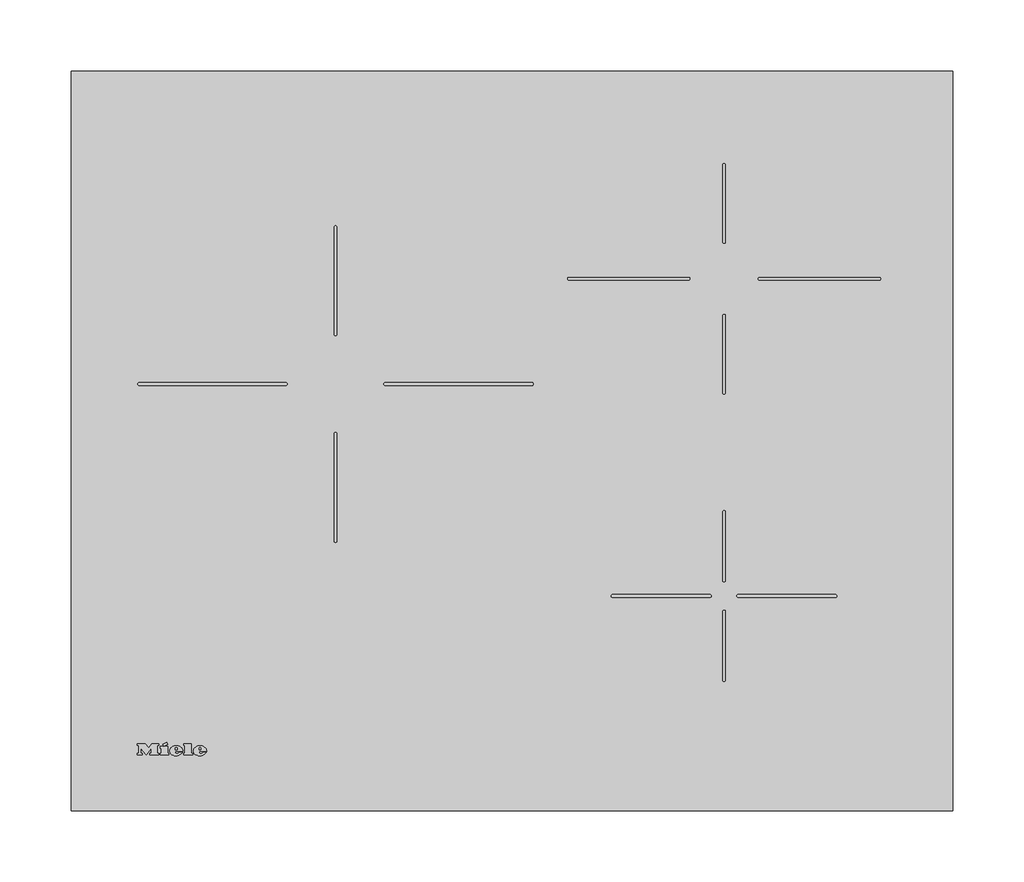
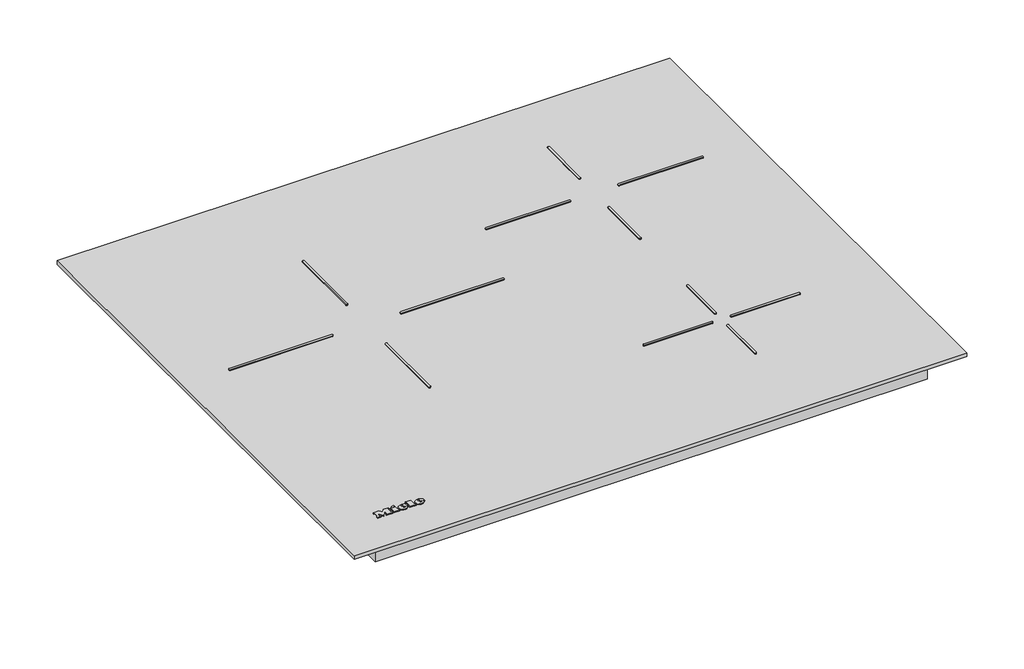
# Not in any storey: 1 proxy.
"""IFC4 building model written with IfcOpenShell, lengths in millimetres."""

import ifcopenshell
import ifcopenshell.guid

model = None  # the IFC model being written
_history = None  # IfcOwnerHistory: only IFC2X3 demands one
_inside = {}  # id of a spatial element -> (the spatial element, [elements in it])
_under = {}  # id of a project, library or spatial element -> (it, [spatial elements below it])
_declared = {}  # id of a project -> (the project, [libraries it declares])
_typed = {}  # id of a type object -> (the type object, [elements of that type])
_made_of = {}  # id of a material, layer set ... -> (it, [elements and type objects made of it])


def new_model(schema):
    """Start an empty IFC model of exactly this schema.

    Asked for "IFC4X3", IfcOpenShell would pick the latest addendum, in which some entities
    have other attributes; the version numbers below select the first issue.
    IFC2X3 requires an IfcOwnerHistory on every rooted entity: one is made here for all.
    """
    global model, _history
    if schema == "IFC4X3":
        model = ifcopenshell.file(schema_version=(4, 3, 0, 0))
    else:
        model = ifcopenshell.file(schema=schema)
    _inside.clear()
    _under.clear()
    _declared.clear()
    _typed.clear()
    _made_of.clear()
    _history = None
    if model.schema == "IFC2X3":
        org = make("IfcOrganization", Name="unknown")
        user = make(
            "IfcPersonAndOrganization",
            ThePerson=make("IfcPerson", FamilyName="unknown"),
            TheOrganization=org,
        )
        app = make(
            "IfcApplication",
            ApplicationDeveloper=org,
            Version="unknown",
            ApplicationFullName="unknown",
            ApplicationIdentifier="unknown",
        )
        _history = make(
            "IfcOwnerHistory",
            OwningUser=user,
            OwningApplication=app,
            ChangeAction="ADDED",
            CreationDate=0,
        )
    return model


def make(cls, **values):
    """One entity of the class cls with the attributes given. An attribute that is None is left unset."""
    return model.create_entity(
        cls, **{name: value for name, value in values.items() if value is not None}
    )


def rooted(cls, **values):
    """An entity with a GlobalId (a new one), such as an element, a storey or a relation."""
    return make(cls, GlobalId=ifcopenshell.guid.new(), OwnerHistory=_history, **values)


def si_unit(unit_type, name, prefix=None):
    """IfcSIUnit, for example si_unit("LENGTHUNIT", "METRE", prefix="MILLI")."""
    return make("IfcSIUnit", UnitType=unit_type, Prefix=prefix, Name=name)


def assignment(units):
    """IfcUnitAssignment: the units of a project."""
    return None if units is None else make("IfcUnitAssignment", Units=units)


def point(xyz):
    """IfcCartesianPoint."""
    return None if xyz is None else make("IfcCartesianPoint", Coordinates=xyz)


def direction(xyz):
    """IfcDirection."""
    return None if xyz is None else make("IfcDirection", DirectionRatios=xyz)


def frame(location, z_axis=None, x_axis=None):
    """IfcAxis2Placement3D, a coordinate frame: its origin and axes. An axis left out is left unset."""
    return make(
        "IfcAxis2Placement3D",
        Location=point(location),
        Axis=direction(z_axis),
        RefDirection=direction(x_axis),
    )


def frame_2d(location, x_axis=None):
    """IfcAxis2Placement2D, a coordinate frame in the plane: its origin and x axis."""
    return make(
        "IfcAxis2Placement2D", Location=point(location), RefDirection=direction(x_axis)
    )


def origin():
    """The frame at (0, 0, 0) with its axes left unset."""
    return frame((0.0, 0.0, 0.0))


def origin_with_axes():
    """The frame at (0, 0, 0) with the z axis (0, 0, 1) and the x axis (1, 0, 0) written out."""
    return frame((0.0, 0.0, 0.0), z_axis=(0.0, 0.0, 1.0), x_axis=(1.0, 0.0, 0.0))


def place(relative_to, where):
    """IfcLocalPlacement: puts the frame where relative to a parent placement (None: the world)."""
    return make(
        "IfcLocalPlacement", PlacementRelTo=relative_to, RelativePlacement=where
    )


def context(
    kind, dimensions, precision=None, world=None, true_north=None, identifier=None
):
    """IfcGeometricRepresentationContext, for example the 3D "Model" context."""
    return make(
        "IfcGeometricRepresentationContext",
        ContextIdentifier=identifier,
        ContextType=kind,
        CoordinateSpaceDimension=dimensions,
        Precision=precision,
        WorldCoordinateSystem=world,
        TrueNorth=true_north,
    )


def project(units=None, contexts=None):
    """IfcProject with its units and contexts."""
    return rooted(
        "IfcProject",
        Name="project",
        RepresentationContexts=contexts,
        UnitsInContext=assignment(units),
    )


def spatial(cls, under=None, at=None, **own):
    """A site, building, storey or space (cls), placed at a placement, below another one or the project."""
    s = rooted(cls, ObjectPlacement=at, **own)
    if under is not None:
        _under.setdefault(under.id(), (under, []))[1].append(s)
    return s


def polyline(points):
    """IfcPolyline through the points."""
    return make("IfcPolyline", Points=[point(p) for p in points])


def circle_curve(where, radius):
    """IfcCircle in the frame where."""
    return make("IfcCircle", Position=where, Radius=radius)


def ellipse_curve(where, semi_axis1, semi_axis2):
    """IfcEllipse in the frame where."""
    return make(
        "IfcEllipse", Position=where, SemiAxis1=semi_axis1, SemiAxis2=semi_axis2
    )


def trimmed(basis, trim1, trim2, sense, master):
    """IfcTrimmedCurve: the piece of a basis curve between two trims."""
    return make(
        "IfcTrimmedCurve",
        BasisCurve=basis,
        Trim1=trim1,
        Trim2=trim2,
        SenseAgreement=sense,
        MasterRepresentation=master,
    )


def segment(curve, same_sense, transition):
    """IfcCompositeCurveSegment."""
    return make(
        "IfcCompositeCurveSegment",
        Transition=transition,
        SameSense=same_sense,
        ParentCurve=curve,
    )


def composite_curve(segments, self_intersect=None):
    """IfcCompositeCurve: segments joined end to end."""
    return make("IfcCompositeCurve", Segments=segments, SelfIntersect=self_intersect)


def outline(outer, holes=None, kind="AREA"):
    """IfcArbitraryClosedProfileDef: a profile drawn as a closed curve; with holes, ...WithVoids."""
    if holes is None:
        return make("IfcArbitraryClosedProfileDef", ProfileType=kind, OuterCurve=outer)
    return make(
        "IfcArbitraryProfileDefWithVoids",
        ProfileType=kind,
        OuterCurve=outer,
        InnerCurves=holes,
    )


def extrude(swept, where, along, depth):
    """IfcExtrudedAreaSolid: the profile swept, set in the frame where, extruded along a direction by depth."""
    return make(
        "IfcExtrudedAreaSolid",
        SweptArea=swept,
        Position=where,
        ExtrudedDirection=direction(along),
        Depth=depth,
    )


def shape(context_of_items, identifier, shape_type, items):
    """IfcShapeRepresentation: the items that make up one representation, for example the "Body"."""
    return make(
        "IfcShapeRepresentation",
        ContextOfItems=context_of_items,
        RepresentationIdentifier=identifier,
        RepresentationType=shape_type,
        Items=items,
    )


def source(mapping_origin, context_of_items, identifier, shape_type, items):
    """IfcRepresentationMap: a shape defined once, which mapped items show again and again."""
    return make(
        "IfcRepresentationMap",
        MappingOrigin=mapping_origin,
        MappedRepresentation=shape(context_of_items, identifier, shape_type, items),
    )


def transform(
    local_origin,
    x_axis=None,
    y_axis=None,
    z_axis=None,
    scale=None,
    scale2=None,
    scale3=None,
    uniform=True,
):
    """IfcCartesianTransformationOperator3D, or its non-uniform kind. x_axis, y_axis, z_axis: its Axis1, 2, 3."""
    if uniform:
        return make(
            "IfcCartesianTransformationOperator3D",
            Axis1=direction(x_axis),
            Axis2=direction(y_axis),
            LocalOrigin=point(local_origin),
            Scale=scale,
            Axis3=direction(z_axis),
        )
    return make(
        "IfcCartesianTransformationOperator3DnonUniform",
        Axis1=direction(x_axis),
        Axis2=direction(y_axis),
        LocalOrigin=point(local_origin),
        Scale=scale,
        Axis3=direction(z_axis),
        Scale2=scale2,
        Scale3=scale3,
    )


def mapped(mapping_source, mapping_target):
    """IfcMappedItem: shows the shape of a source again, moved by a transform."""
    return make(
        "IfcMappedItem", MappingSource=mapping_source, MappingTarget=mapping_target
    )


def made_of(thing, what):
    """Note that an element or type object is made of a material, layer set ...; save() writes the relation."""
    if what is not None:
        _made_of.setdefault(what.id(), (what, []))[1].append(thing)
    return thing


def element(
    cls,
    number,
    at=None,
    inside=None,
    cuts=None,
    type_object=None,
    material=None,
    context=None,
    identifier="Body",
    shape_type=None,
    held_by="IfcProductDefinitionShape",
    body=None,
    shapes=None,
    **own,
):
    """One element of the class cls, such as IfcWall. Its Tag is "e" and its number.

    at: its placement. inside: the storey or other place that contains it. cuts: it is an
    opening in that element (IfcRelVoidsElement). A single representation is given by context,
    identifier, shape_type and body (its items); several are given by shapes. held_by: the class
    of the entity that holds the representations. save() writes the other relations.
    """
    e = rooted(cls, Tag="e%d" % number, ObjectPlacement=at, **own)
    if body is not None:
        shapes = [shape(context, identifier, shape_type, body)]
    if shapes is not None:
        e.Representation = make(held_by, Representations=shapes)
    if inside is not None:
        _inside.setdefault(inside.id(), (inside, []))[1].append(e)
    if cuts is not None:
        rooted(
            "IfcRelVoidsElement", RelatingBuildingElement=cuts, RelatedOpeningElement=e
        )
    if type_object is not None:
        _typed.setdefault(type_object.id(), (type_object, []))[1].append(e)
    return made_of(e, material)


def aggregate(whole, parts):
    """IfcRelAggregates: a whole, such as a stair, and the parts it consists of."""
    return rooted("IfcRelAggregates", RelatingObject=whole, RelatedObjects=parts)


def save(model, path):
    """Write the relations noted so far, then the file.

    IfcRelAggregates (storeys below a building ...), IfcRelContainedInSpatialStructure (elements
    in a storey), IfcRelDefinesByType, IfcRelAssociatesMaterial and IfcRelDeclares: one each for
    every whole, place, type object, material and project.
    """
    for whole, parts in _under.values():
        aggregate(whole, parts)
    for where, things in _inside.values():
        rooted(
            "IfcRelContainedInSpatialStructure",
            RelatedElements=things,
            RelatingStructure=where,
        )
    for kind, things in _typed.values():
        rooted("IfcRelDefinesByType", RelatedObjects=things, RelatingType=kind)
    for what, things in _made_of.values():
        rooted("IfcRelAssociatesMaterial", RelatedObjects=things, RelatingMaterial=what)
    for by, libraries in _declared.values():
        rooted("IfcRelDeclares", RelatingContext=by, RelatedDefinitions=libraries)
    model.write(path)


def plane_surface(at):
    """IfcPlane: the flat surface through the origin of the frame at, square to its z axis."""
    return make("IfcPlane", Position=at)


def cylinder_surface(at, radius):
    """IfcCylindricalSurface: all points at the distance radius from the z axis of the frame at."""
    return make("IfcCylindricalSurface", Position=at, Radius=radius)


def revolved_surface(curve, axis_point, axis_direction):
    """IfcSurfaceOfRevolution: the curve turned about the line through axis_point along axis_direction."""
    return make(
        "IfcSurfaceOfRevolution",
        SweptCurve=make("IfcArbitraryOpenProfileDef", ProfileType="CURVE", Curve=curve),
        AxisPosition=make("IfcAxis1Placement", Location=point(axis_point), Axis=direction(axis_direction)),
    )


def extruded_surface(curve, direction_of_extrusion, depth):
    """IfcSurfaceOfLinearExtrusion: the curve pushed along a direction by depth."""
    return make(
        "IfcSurfaceOfLinearExtrusion",
        SweptCurve=make("IfcArbitraryOpenProfileDef", ProfileType="CURVE", Curve=curve),
        ExtrudedDirection=direction(direction_of_extrusion),
        Depth=depth,
    )


def advanced_brep(points, edges, surfaces, faces):
    """IfcAdvancedBrep: a solid bounded by faces that lie on surfaces and meet in shared edges.

    An edge is (start, end): straight between two places in points (the first is 0);
    or (start, end, curve); or (start, end, curve, False) where it runs against its curve.
    A face is (place in surfaces, loops), or (place, loops, False) where it looks against
    its surface's normal. A loop lists edges by number (the first is 1), with a minus sign
    where the edge is run from its end to its start. The first loop is the outer one.
    """
    corners = [point(p) for p in points]
    vertices = [make("IfcVertexPoint", VertexGeometry=c) for c in corners]
    made = []
    for start, end, *more in edges:
        made.append(
            make(
                "IfcEdgeCurve",
                EdgeStart=vertices[start],
                EdgeEnd=vertices[end],
                EdgeGeometry=more[0] if more else make("IfcPolyline", Points=[corners[start], corners[end]]),
                SameSense=more[1] if len(more) > 1 else True,
            )
        )
    hull = []
    for where, loops, *sense in faces:
        bounds = []
        for j, loop in enumerate(loops):
            ring = [make("IfcOrientedEdge", EdgeElement=made[abs(k) - 1], Orientation=k > 0) for k in loop]
            bounds.append(
                make(
                    "IfcFaceOuterBound" if j == 0 else "IfcFaceBound",
                    Bound=make("IfcEdgeLoop", EdgeList=ring),
                    Orientation=True,
                )
            )
        hull.append(make("IfcAdvancedFace", Bounds=bounds, FaceSurface=surfaces[where], SameSense=sense[0] if sense else True))
    return make("IfcAdvancedBrep", Outer=make("IfcClosedShell", CfsFaces=hull))


def specialty_equipment_c76324b8(model_context):
    return source(origin(), model_context, "Body", "SolidModel", [
        advanced_brep(
        [(-219.911984, 41.066, 5.0000007), (-219.911984, 41.874, 5.0000007), (-214.559984, 41.874, 5.0000007), (-223.871984, 41.874, 5.0000007), (-221.671984, 39.17, 5.0000007), (-214.695984, 41.066, 5.0000007), (-217.111984, 41.066, 5.0000007), (-219.015984, 40.17, 5.0000007), (-219.911984, 42.898, 5.0000007), (-219.911984, 43.77, 5.0000007), (-218.543984, 43.77, 5.0000007), (-218.543984, 42.898, 5.0000007), (-219.911984, 41.066, 4.0000007), (-219.015984, 40.17, 4.0000007), (-217.111984, 41.066, 4.0000007), (-214.695984, 41.066, 4.0000007), (-221.671984, 39.17, 4.0000007), (-223.871984, 41.874, 4.0000007), (-214.559984, 41.874, 4.0000007), (-219.911984, 41.874, 4.0000007), (-219.911984, 42.898, 4.0000007), (-218.543984, 42.898, 4.0000007), (-218.543984, 43.77, 4.0000007), (-219.911984, 43.77, 4.0000007)],
        [
            (0, 1),
            (1, 2),
            (2, 3, ellipse_curve(frame((-219.215984, 41.874, 5.0000007), z_axis=(0.0, 0.0, 1.0), x_axis=(-1.0, 0.0, 0.0)), 4.656, 3.848)),
            (3, 4, circle_curve(frame((-220.7759404, 42.146, 5.0000007), z_axis=(0.0, 0.0, 1.0), x_axis=(0.0, -1.0, 0.0)), 3.1079688)),
            (4, 5, circle_curve(frame((-219.3091904, 44.258, 5.0000007), z_axis=(0.0, 0.0, 1.0), x_axis=(0.0, -1.0, 0.0)), 5.6098607)),
            (5, 6),
            (6, 7, circle_curve(frame((-218.6249252, 41.81, 5.0000007), z_axis=(0.0, 0.0, -1.0), x_axis=(0.0, -1.0, 0.0)), 1.6859795)),
            (7, 0, circle_curve(frame((-219.015984, 41.066, 5.0000007), z_axis=(0.0, 0.0, -1.0), x_axis=(0.0, -1.0, 0.0)), 0.896)),
            (8, 9),
            (9, 10, circle_curve(frame((-219.227984, 43.77, 5.0000007), z_axis=(0.0, 0.0, -1.0), x_axis=(0.0, -1.0, 0.0)), 0.684)),
            (10, 11),
            (11, 8),
            (12, 13, circle_curve(frame((-219.015984, 41.066, 4.0000007), z_axis=(0.0, 0.0, 1.0), x_axis=(0.0, -1.0, 0.0)), 0.896)),
            (13, 14, circle_curve(frame((-218.6249252, 41.81, 4.0000007), z_axis=(0.0, 0.0, 1.0), x_axis=(0.0, -1.0, 0.0)), 1.6859795)),
            (14, 15),
            (15, 16, circle_curve(frame((-219.3091904, 44.258, 4.0000007), z_axis=(0.0, 0.0, -1.0), x_axis=(0.0, -1.0, 0.0)), 5.6098607)),
            (16, 17, circle_curve(frame((-220.7759404, 42.146, 4.0000007), z_axis=(0.0, 0.0, -1.0), x_axis=(0.0, -1.0, 0.0)), 3.1079688)),
            (17, 18, ellipse_curve(frame((-219.215984, 41.874, 4.0000007), z_axis=(0.0, 0.0, -1.0), x_axis=(-1.0, 0.0, 0.0)), 4.656, 3.848)),
            (18, 19),
            (19, 12),
            (20, 21),
            (21, 22),
            (22, 23, circle_curve(frame((-219.227984, 43.77, 4.0000007), z_axis=(0.0, 0.0, 1.0), x_axis=(0.0, -1.0, 0.0)), 0.684)),
            (23, 20),
            (0, 12),
            (19, 1),
            (18, 2),
            (5, 15),
            (14, 6),
            (17, 3),
            (13, 7),
            (16, 4),
            (8, 20),
            (23, 9),
            (22, 10),
            (21, 11),
        ],
        [
            plane_surface(frame((-219.911984, 41.874, 5.0000007), z_axis=(0.0, 0.0, 1.0), x_axis=(0.0, 1.0, 0.0))),
            plane_surface(frame((-219.911984, 41.874, 4.0000007), z_axis=(0.0, 0.0, -1.0), x_axis=(0.0, -1.0, 0.0))),
            plane_surface(frame((-219.911984, 41.066, 5.0000007), z_axis=(1.0, 0.0, 0.0), x_axis=(0.0, 0.0, -1.0))),
            plane_surface(frame((-219.911984, 41.874, 5.0000007), z_axis=(0.0, -1.0, 0.0), x_axis=(0.0, 0.0, -1.0))),
            plane_surface(frame((-214.695984, 41.066, 5.0000007), z_axis=(0.0, 1.0, 0.0), x_axis=(0.0, 0.0, -1.0))),
            extruded_surface(trimmed(ellipse_curve(frame((-219.215984, 41.874, 3.0000007), z_axis=(0.0, 0.0, 1.0), x_axis=(-1.0, 0.0, 0.0)), 4.656, 3.848), [point((-214.559984, 41.874, 3.0000007))], [point((-223.871984, 41.874, 3.0000007))], True, "CARTESIAN"), (0.0, 0.0, 1.0), 1.0),
            revolved_surface(polyline([(-218.6249252, 40.1240205, 4.0000007), (-218.6249252, 40.1240205, 5.0000007)]), (-218.6249252, 41.81, 4.0000007), (0.0, 0.0, -1.0)),
            revolved_surface(polyline([(-219.015984, 40.17, 4.0000007), (-219.015984, 40.17, 5.0000007)]), (-219.015984, 41.066, 4.0000007), (0.0, 0.0, -1.0)),
            cylinder_surface(frame((-220.7759404, 42.146, 4.0000007), z_axis=(0.0, 0.0, 1.0), x_axis=(0.0, -1.0, 0.0)), 3.1079688),
            cylinder_surface(frame((-219.3091904, 44.258, 4.0000007), z_axis=(0.0, 0.0, 1.0), x_axis=(0.0, -1.0, 0.0)), 5.6098607),
            plane_surface(frame((-219.911984, 42.898, 5.0000007), z_axis=(1.0, 0.0, 0.0), x_axis=(0.0, 0.0, -1.0))),
            revolved_surface(polyline([(-219.227984, 43.086000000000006, 4.0000007), (-219.227984, 43.086000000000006, 5.0000007)]), (-219.227984, 43.77, 4.0000007), (0.0, 0.0, -1.0)),
            plane_surface(frame((-218.543984, 43.77, 5.0000007), z_axis=(-1.0, 0.0, 0.0), x_axis=(0.0, 0.0, -1.0))),
            plane_surface(frame((-218.543984, 42.898, 5.0000007), z_axis=(0.0, 1.0, 0.0), x_axis=(0.0, 0.0, -1.0))),
        ],
        [
            (0, [[1, 2, 3, 4, 5, 6, 7, 8], [9, 10, 11, 12]]),
            (1, [[13, 14, 15, 16, 17, 18, 19, 20], [21, 22, 23, 24]]),
            (2, [[-1, 25, -20, 26]]),
            (3, [[-2, -26, -19, 27]]),
            (4, [[-6, 28, -15, 29]]),
            (5, [[-3, -27, -18, 30]]),
            (6, [[-7, -29, -14, 31]]),
            (7, [[-8, -31, -13, -25]]),
            (8, [[-4, -30, -17, 32]]),
            (9, [[-5, -32, -16, -28]]),
            (10, [[-9, 33, -24, 34]]),
            (11, [[-10, -34, -23, 35]]),
            (12, [[-11, -35, -22, 36]]),
            (13, [[-12, -36, -21, -33]]),
        ],
    ),
        advanced_brep(
        [(-236.607984, 41.066, 5.0000007), (-236.607984, 41.874, 5.0000007), (-231.255984, 41.874, 5.0000007), (-240.567984, 41.874, 5.0000007), (-238.367984, 39.17, 5.0000007), (-231.391984, 41.066, 5.0000007), (-233.807984, 41.066, 5.0000007), (-235.711984, 40.17, 5.0000007), (-236.607984, 42.898, 5.0000007), (-236.607984, 43.77, 5.0000007), (-235.239984, 43.77, 5.0000007), (-235.239984, 42.898, 5.0000007), (-236.607984, 41.066, 4.0000007), (-235.711984, 40.17, 4.0000007), (-233.807984, 41.066, 4.0000007), (-231.391984, 41.066, 4.0000007), (-238.367984, 39.17, 4.0000007), (-240.567984, 41.874, 4.0000007), (-231.255984, 41.874, 4.0000007), (-236.607984, 41.874, 4.0000007), (-236.607984, 42.898, 4.0000007), (-235.239984, 42.898, 4.0000007), (-235.239984, 43.77, 4.0000007), (-236.607984, 43.77, 4.0000007)],
        [
            (0, 1),
            (1, 2),
            (2, 3, ellipse_curve(frame((-235.911984, 41.874, 5.0000007), z_axis=(0.0, 0.0, 1.0), x_axis=(-1.0, 0.0, 0.0)), 4.656, 3.848)),
            (3, 4, circle_curve(frame((-237.4719404, 42.146, 5.0000007), z_axis=(0.0, 0.0, 1.0), x_axis=(0.0, -1.0, 0.0)), 3.1079688)),
            (4, 5, circle_curve(frame((-236.0051904, 44.258, 5.0000007), z_axis=(0.0, 0.0, 1.0), x_axis=(0.0, -1.0, 0.0)), 5.6098607)),
            (5, 6),
            (6, 7, circle_curve(frame((-235.3209252, 41.81, 5.0000007), z_axis=(0.0, 0.0, -1.0), x_axis=(0.0, -1.0, 0.0)), 1.6859795)),
            (7, 0, circle_curve(frame((-235.711984, 41.066, 5.0000007), z_axis=(0.0, 0.0, -1.0), x_axis=(0.0, -1.0, 0.0)), 0.896)),
            (8, 9),
            (9, 10, circle_curve(frame((-235.923984, 43.77, 5.0000007), z_axis=(0.0, 0.0, -1.0), x_axis=(0.0, -1.0, 0.0)), 0.684)),
            (10, 11),
            (11, 8),
            (12, 13, circle_curve(frame((-235.711984, 41.066, 4.0000007), z_axis=(0.0, 0.0, 1.0), x_axis=(0.0, -1.0, 0.0)), 0.896)),
            (13, 14, circle_curve(frame((-235.3209252, 41.81, 4.0000007), z_axis=(0.0, 0.0, 1.0), x_axis=(0.0, -1.0, 0.0)), 1.6859795)),
            (14, 15),
            (15, 16, circle_curve(frame((-236.0051904, 44.258, 4.0000007), z_axis=(0.0, 0.0, -1.0), x_axis=(0.0, -1.0, 0.0)), 5.6098607)),
            (16, 17, circle_curve(frame((-237.4719404, 42.146, 4.0000007), z_axis=(0.0, 0.0, -1.0), x_axis=(0.0, -1.0, 0.0)), 3.1079688)),
            (17, 18, ellipse_curve(frame((-235.911984, 41.874, 4.0000007), z_axis=(0.0, 0.0, -1.0), x_axis=(-1.0, 0.0, 0.0)), 4.656, 3.848)),
            (18, 19),
            (19, 12),
            (20, 21),
            (21, 22),
            (22, 23, circle_curve(frame((-235.923984, 43.77, 4.0000007), z_axis=(0.0, 0.0, 1.0), x_axis=(0.0, -1.0, 0.0)), 0.684)),
            (23, 20),
            (0, 12),
            (19, 1),
            (18, 2),
            (5, 15),
            (14, 6),
            (17, 3),
            (13, 7),
            (16, 4),
            (8, 20),
            (23, 9),
            (22, 10),
            (21, 11),
        ],
        [
            plane_surface(frame((-236.607984, 41.874, 5.0000007), z_axis=(0.0, 0.0, 1.0), x_axis=(0.0, 1.0, 0.0))),
            plane_surface(frame((-236.607984, 41.874, 4.0000007), z_axis=(0.0, 0.0, -1.0), x_axis=(0.0, -1.0, 0.0))),
            plane_surface(frame((-236.607984, 41.066, 5.0000007), z_axis=(1.0, 0.0, 0.0), x_axis=(0.0, 0.0, -1.0))),
            plane_surface(frame((-236.607984, 41.874, 5.0000007), z_axis=(0.0, -1.0, 0.0), x_axis=(0.0, 0.0, -1.0))),
            plane_surface(frame((-231.391984, 41.066, 5.0000007), z_axis=(0.0, 1.0, 0.0), x_axis=(0.0, 0.0, -1.0))),
            extruded_surface(trimmed(ellipse_curve(frame((-235.911984, 41.874, 3.0000007), z_axis=(0.0, 0.0, 1.0), x_axis=(-1.0, 0.0, 0.0)), 4.656, 3.848), [point((-231.255984, 41.874, 3.0000007))], [point((-240.567984, 41.874, 3.0000007))], True, "CARTESIAN"), (0.0, 0.0, 1.0), 1.0),
            revolved_surface(polyline([(-235.3209252, 40.1240205, 4.0000007), (-235.3209252, 40.1240205, 5.0000007)]), (-235.3209252, 41.81, 4.0000007), (0.0, 0.0, -1.0)),
            revolved_surface(polyline([(-235.711984, 40.17, 4.0000007), (-235.711984, 40.17, 5.0000007)]), (-235.711984, 41.066, 4.0000007), (0.0, 0.0, -1.0)),
            cylinder_surface(frame((-237.4719404, 42.146, 4.0000007), z_axis=(0.0, 0.0, 1.0), x_axis=(0.0, -1.0, 0.0)), 3.1079688),
            cylinder_surface(frame((-236.0051904, 44.258, 4.0000007), z_axis=(0.0, 0.0, 1.0), x_axis=(0.0, -1.0, 0.0)), 5.6098607),
            plane_surface(frame((-236.607984, 42.898, 5.0000007), z_axis=(1.0, 0.0, 0.0), x_axis=(0.0, 0.0, -1.0))),
            revolved_surface(polyline([(-235.923984, 43.086000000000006, 4.0000007), (-235.923984, 43.086000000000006, 5.0000007)]), (-235.923984, 43.77, 4.0000007), (0.0, 0.0, -1.0)),
            plane_surface(frame((-235.239984, 43.77, 5.0000007), z_axis=(-1.0, 0.0, 0.0), x_axis=(0.0, 0.0, -1.0))),
            plane_surface(frame((-235.239984, 42.898, 5.0000007), z_axis=(0.0, 1.0, 0.0), x_axis=(0.0, 0.0, -1.0))),
        ],
        [
            (0, [[1, 2, 3, 4, 5, 6, 7, 8], [9, 10, 11, 12]]),
            (1, [[13, 14, 15, 16, 17, 18, 19, 20], [21, 22, 23, 24]]),
            (2, [[-1, 25, -20, 26]]),
            (3, [[-2, -26, -19, 27]]),
            (4, [[-6, 28, -15, 29]]),
            (5, [[-3, -27, -18, 30]]),
            (6, [[-7, -29, -14, 31]]),
            (7, [[-8, -31, -13, -25]]),
            (8, [[-4, -30, -17, 32]]),
            (9, [[-5, -32, -16, -28]]),
            (10, [[-9, 33, -24, 34]]),
            (11, [[-10, -34, -23, 35]]),
            (12, [[-11, -35, -22, 36]]),
            (13, [[-12, -36, -21, -33]]),
        ],
    ),
        extrude(outline(polyline([(-245.351984, 46.698), (-242.631984, 47.962), (-242.031984, 46.666), (-244.743984, 45.402), (-245.351984, 46.698)])), frame((0.0, 0.0, 4.0000007), z_axis=(0.0, 0.0, 1.0), x_axis=(1.0, 0.0, 0.0)), (0.0, 0.0, 1.0), 1.0),
        extrude(outline(polyline([(-247.327984, 45.226), (-241.943984, 45.226), (-241.943984, 40.514), (-241.015984, 40.514), (-241.015984, 39.17), (-247.327984, 39.17), (-247.327984, 40.514), (-246.375984, 40.514), (-246.375984, 43.794), (-247.327984, 43.794), (-247.327984, 45.226)])), frame((0.0, 0.0, 4.0000007), z_axis=(0.0, 0.0, 1.0), x_axis=(1.0, 0.0, 0.0)), (0.0, 0.0, 1.0), 1.0),
        extrude(outline(polyline([(-230.807984, 45.866), (-230.807984, 47.17), (-225.303984, 47.17), (-225.303984, 40.514), (-224.319984, 40.514), (-224.319984, 39.17), (-230.807984, 39.17), (-230.807984, 40.514), (-229.847984, 40.514), (-229.847984, 45.866), (-230.807984, 45.866)])), frame((0.0, 0.0, 4.0000007), z_axis=(0.0, 0.0, 1.0), x_axis=(1.0, 0.0, 0.0)), (0.0, 0.0, 1.0), 1.0),
        extrude(outline(polyline([(-263.271984, 45.866), (-263.271984, 47.17), (-257.695984, 47.17), (-255.351984, 44.17), (-253.015984, 47.17), (-248.143984, 47.17), (-248.143984, 45.866), (-249.159984, 45.866), (-249.159984, 40.514), (-248.143984, 40.514), (-248.143984, 39.17), (-254.527984, 39.17), (-254.527984, 40.514), (-253.543984, 40.514), (-253.543984, 43.9852223), (-257.135984, 39.17), (-260.711984, 43.9171247), (-260.711984, 40.514), (-259.751984, 40.514), (-259.751984, 39.17), (-263.271984, 39.17), (-263.271984, 40.514), (-262.303984, 40.514), (-262.303984, 45.866), (-263.271984, 45.866)])), frame((0.0, 0.0, 4.0000007), z_axis=(0.0, 0.0, 1.0), x_axis=(1.0, 0.0, 0.0)), (0.0, 0.0, 1.0), 1.0),
        extrude(outline(composite_curve([segment(polyline([(174.0, 375.0), (258.0, 375.0)]), True, "CONTINUOUS"), segment(trimmed(circle_curve(frame_2d((258.0, 374.0)), 1.0), [point((258.0, 375.0))], [point((258.0, 373.0))], False, "CARTESIAN"), True, "CONTINUOUS"), segment(polyline([(258.0, 373.0), (174.0, 373.0)]), True, "CONTINUOUS"), segment(trimmed(circle_curve(frame_2d((174.0, 374.0)), 1.0), [point((174.0, 373.0))], [point((174.0, 375.0))], False, "CARTESIAN"), True, "CONTINUOUS")], self_intersect=False)), frame((0.0, 0.0, 4.0000007), z_axis=(0.0, 0.0, 1.0), x_axis=(1.0, 0.0, 0.0)), (0.0, 0.0, 1.0), 1.0),
        extrude(outline(composite_curve([segment(trimmed(circle_curve(frame_2d((149.0, 454.0164244)), 1.0), [point((148.0, 454.0164244))], [point((150.0, 454.0164244))], False, "CARTESIAN"), True, "CONTINUOUS"), segment(polyline([(150.0, 454.0164244), (150.0, 400.0)]), True, "CONTINUOUS"), segment(trimmed(circle_curve(frame_2d((149.0, 400.0)), 1.0), [point((150.0, 400.0))], [point((148.0, 400.0))], False, "CARTESIAN"), True, "CONTINUOUS"), segment(polyline([(148.0, 400.0), (148.0, 454.0164244)]), True, "CONTINUOUS")], self_intersect=False)), frame((0.0, 0.0, 4.0000007), z_axis=(0.0, 0.0, 1.0), x_axis=(1.0, 0.0, 0.0)), (0.0, 0.0, 1.0), 1.0),
        extrude(outline(composite_curve([segment(trimmed(circle_curve(frame_2d((159.0, 151.0)), 1.0), [point((159.0, 150.0))], [point((159.0, 152.0))], False, "CARTESIAN"), True, "CONTINUOUS"), segment(polyline([(159.0, 152.0), (227.2574779, 152.0)]), True, "CONTINUOUS"), segment(trimmed(circle_curve(frame_2d((227.2574779, 151.0)), 1.0), [point((227.2574779, 152.0))], [point((227.2574779, 150.0))], False, "CARTESIAN"), True, "CONTINUOUS"), segment(polyline([(227.2574779, 150.0), (159.0, 150.0)]), True, "CONTINUOUS")], self_intersect=False)), frame((0.0, 0.0, 4.0000007), z_axis=(0.0, 0.0, 1.0), x_axis=(1.0, 0.0, 0.0)), (0.0, 0.0, 1.0), 1.0),
        extrude(outline(composite_curve([segment(polyline([(148.0, 92.0), (148.0, 140.0)]), True, "CONTINUOUS"), segment(trimmed(circle_curve(frame_2d((149.0, 140.0)), 1.0), [point((148.0, 140.0))], [point((150.0, 140.0))], False, "CARTESIAN"), True, "CONTINUOUS"), segment(polyline([(150.0, 140.0), (150.0, 92.0)]), True, "CONTINUOUS"), segment(trimmed(circle_curve(frame_2d((149.0, 92.0)), 1.0), [point((150.0, 92.0))], [point((148.0, 92.0))], False, "CARTESIAN"), True, "CONTINUOUS")], self_intersect=False)), frame((0.0, 0.0, 4.0000007), z_axis=(0.0, 0.0, 1.0), x_axis=(1.0, 0.0, 0.0)), (0.0, 0.0, 1.0), 1.0),
        extrude(outline(composite_curve([segment(polyline([(-125.0, 189.7404504), (-125.0, 265.0)]), True, "CONTINUOUS"), segment(trimmed(circle_curve(frame_2d((-124.0, 265.0)), 1.0), [point((-125.0, 265.0))], [point((-123.0, 265.0))], False, "CARTESIAN"), True, "CONTINUOUS"), segment(polyline([(-123.0, 265.0), (-123.0, 189.7404504)]), True, "CONTINUOUS"), segment(trimmed(circle_curve(frame_2d((-124.0, 189.7404504)), 1.0), [point((-123.0, 189.7404504))], [point((-125.0, 189.7404504))], False, "CARTESIAN"), True, "CONTINUOUS")], self_intersect=False)), frame((0.0, 0.0, 4.0000007), z_axis=(0.0, 0.0, 1.0), x_axis=(1.0, 0.0, 0.0)), (0.0, 0.0, 1.0), 1.0),
        extrude(outline(composite_curve([segment(trimmed(circle_curve(frame_2d((-89.0, 300.0)), 1.0), [point((-89.0, 299.0))], [point((-89.0, 301.0))], False, "CARTESIAN"), True, "CONTINUOUS"), segment(polyline([(-89.0, 301.0), (14.0, 301.0)]), True, "CONTINUOUS"), segment(trimmed(circle_curve(frame_2d((14.0, 300.0)), 1.0), [point((14.0, 301.0))], [point((14.0, 299.0))], False, "CARTESIAN"), True, "CONTINUOUS"), segment(polyline([(14.0, 299.0), (-89.0, 299.0)]), True, "CONTINUOUS")], self_intersect=False)), frame((0.0, 0.0, 4.0000007), z_axis=(0.0, 0.0, 1.0), x_axis=(1.0, 0.0, 0.0)), (0.0, 0.0, 1.0), 1.0),
        extrude(outline(composite_curve([segment(polyline([(148.0, 293.9835756), (148.0, 348.0)]), True, "CONTINUOUS"), segment(trimmed(circle_curve(frame_2d((149.0, 348.0)), 1.0), [point((148.0, 348.0))], [point((150.0, 348.0))], False, "CARTESIAN"), True, "CONTINUOUS"), segment(polyline([(150.0, 348.0), (150.0, 293.9835756)]), True, "CONTINUOUS"), segment(trimmed(circle_curve(frame_2d((149.0, 293.9835756)), 1.0), [point((150.0, 293.9835756))], [point((148.0, 293.9835756))], False, "CARTESIAN"), True, "CONTINUOUS")], self_intersect=False)), frame((0.0, 0.0, 4.0000007), z_axis=(0.0, 0.0, 1.0), x_axis=(1.0, 0.0, 0.0)), (0.0, 0.0, 1.0), 1.0),
        extrude(outline(composite_curve([segment(trimmed(circle_curve(frame_2d((124.0, 374.0)), 1.0), [point((124.0, 375.0))], [point((124.0, 373.0))], False, "CARTESIAN"), True, "CONTINUOUS"), segment(polyline([(124.0, 373.0), (40.0, 373.0)]), True, "CONTINUOUS"), segment(trimmed(circle_curve(frame_2d((40.0, 374.0)), 1.0), [point((40.0, 373.0))], [point((40.0, 375.0))], False, "CARTESIAN"), True, "CONTINUOUS"), segment(polyline([(40.0, 375.0), (124.0, 375.0)]), True, "CONTINUOUS")], self_intersect=False)), frame((0.0, 0.0, 4.0000007), z_axis=(0.0, 0.0, 1.0), x_axis=(1.0, 0.0, 0.0)), (0.0, 0.0, 1.0), 1.0),
        extrude(outline(composite_curve([segment(trimmed(circle_curve(frame_2d((149.0, 210.0)), 1.0), [point((148.0, 210.0))], [point((150.0, 210.0))], False, "CARTESIAN"), True, "CONTINUOUS"), segment(polyline([(150.0, 210.0), (150.0, 162.0)]), True, "CONTINUOUS"), segment(trimmed(circle_curve(frame_2d((149.0, 162.0)), 1.0), [point((150.0, 162.0))], [point((148.0, 162.0))], False, "CARTESIAN"), True, "CONTINUOUS"), segment(polyline([(148.0, 162.0), (148.0, 210.0)]), True, "CONTINUOUS")], self_intersect=False)), frame((0.0, 0.0, 4.0000007), z_axis=(0.0, 0.0, 1.0), x_axis=(1.0, 0.0, 0.0)), (0.0, 0.0, 1.0), 1.0),
        extrude(outline(composite_curve([segment(polyline([(139.0, 150.0), (70.7425221, 150.0)]), True, "CONTINUOUS"), segment(trimmed(circle_curve(frame_2d((70.7425221, 151.0)), 1.0), [point((70.7425221, 150.0))], [point((70.7425221, 152.0))], False, "CARTESIAN"), True, "CONTINUOUS"), segment(polyline([(70.7425221, 152.0), (139.0, 152.0)]), True, "CONTINUOUS"), segment(trimmed(circle_curve(frame_2d((139.0, 151.0)), 1.0), [point((139.0, 152.0))], [point((139.0, 150.0))], False, "CARTESIAN"), True, "CONTINUOUS")], self_intersect=False)), frame((0.0, 0.0, 4.0000007), z_axis=(0.0, 0.0, 1.0), x_axis=(1.0, 0.0, 0.0)), (0.0, 0.0, 1.0), 1.0),
        extrude(outline(composite_curve([segment(polyline([(-159.0, 299.0), (-262.0, 299.0)]), True, "CONTINUOUS"), segment(trimmed(circle_curve(frame_2d((-262.0, 300.0)), 1.0), [point((-262.0, 299.0))], [point((-262.0, 301.0))], False, "CARTESIAN"), True, "CONTINUOUS"), segment(polyline([(-262.0, 301.0), (-159.0, 301.0)]), True, "CONTINUOUS"), segment(trimmed(circle_curve(frame_2d((-159.0, 300.0)), 1.0), [point((-159.0, 301.0))], [point((-159.0, 299.0))], False, "CARTESIAN"), True, "CONTINUOUS")], self_intersect=False)), frame((0.0, 0.0, 4.0000007), z_axis=(0.0, 0.0, 1.0), x_axis=(1.0, 0.0, 0.0)), (0.0, 0.0, 1.0), 1.0),
        extrude(outline(composite_curve([segment(trimmed(circle_curve(frame_2d((-124.0, 410.2595496)), 1.0), [point((-125.0, 410.2595496))], [point((-123.0, 410.2595496))], False, "CARTESIAN"), True, "CONTINUOUS"), segment(polyline([(-123.0, 410.2595496), (-123.0, 335.0)]), True, "CONTINUOUS"), segment(trimmed(circle_curve(frame_2d((-124.0, 335.0)), 1.0), [point((-123.0, 335.0))], [point((-125.0, 335.0))], False, "CARTESIAN"), True, "CONTINUOUS"), segment(polyline([(-125.0, 335.0), (-125.0, 410.2595496)]), True, "CONTINUOUS")], self_intersect=False)), frame((0.0, 0.0, 4.0000007), z_axis=(0.0, 0.0, 1.0), x_axis=(1.0, 0.0, 0.0)), (0.0, 0.0, 1.0), 1.0),
        extrude(outline(polyline([(226.7938197, 480.0), (226.7938197, 362.7202614), (229.0, 362.7202614), (229.0, 76.0), (-64.0, 76.0), (-64.0, 480.0), (226.7938197, 480.0)])), frame((0.0, 0.0, -49.1723575), z_axis=(0.0, 0.0, 1.0), x_axis=(1.0, 0.0, 0.0)), (0.0, 0.0, 1.0), 26.1723575),
        extrude(outline(polyline([(279.0, 504.0), (279.0, 16.0), (-279.0, 16.0), (-279.0, 504.0), (279.0, 504.0)])), frame((0.0, 0.0, -23.0), z_axis=(0.0, 0.0, 1.0), x_axis=(1.0, 0.0, 0.0)), (0.0, 0.0, 1.0), 23.0),
        extrude(outline(polyline([(309.75, 520.0), (309.75, 0.0), (-309.75, 0.0), (-309.75, 520.0), (309.75, 520.0)])), origin_with_axes(), (0.0, 0.0, 1.0), 4.0000007),
        extrude(outline(polyline([(229.6227397, 383.1708126), (237.0, 383.1708126), (237.0, 381.9151088), (230.8784436, 381.9151088), (230.8784436, 378.6188861), (236.529111, 378.6188861), (236.529111, 377.3631822), (230.8784436, 377.3631822), (230.8784436, 374.3808855), (236.843037, 374.3808855), (236.843037, 373.1251816), (229.6227397, 373.1251816), (229.6227397, 383.1708126)])), frame((0.0, 0.0, -55.9814925), z_axis=(0.0, 0.0, 1.0), x_axis=(1.0, 0.0, 0.0)), (0.0, 0.0, 1.0), 1.0),
        extrude(outline(polyline([(238.8835558, 383.1708126), (245.1620752, 383.1708126), (245.1620752, 381.9151088), (240.1392597, 381.9151088), (240.1392597, 373.1251816), (238.8835558, 373.1251816), (238.8835558, 383.1708126)])), frame((0.0, 0.0, -55.9814925), z_axis=(0.0, 0.0, 1.0), x_axis=(1.0, 0.0, 0.0)), (0.0, 0.0, 1.0), 1.0),
        advanced_brep(
        [(214.0, 378.1708126, -42.9814925), (214.0, 378.1708126, -26.9814925), (228.7476293, 378.1708126, -42.9814925), (244.7476293, 378.1708126, -26.9814925), (228.7476293, 378.1708126, -54.9814925), (244.7476293, 378.1708126, -54.9814925)],
        [
            (0, 1, circle_curve(frame((214.0, 378.1708126, -34.9814925), z_axis=(-1.0, 0.0, 0.0), x_axis=(0.0, 0.0, 1.0)), 8.0)),
            (1, 0, circle_curve(frame((214.0, 378.1708126, -34.9814925), z_axis=(-1.0, 0.0, 0.0), x_axis=(0.0, 0.0, 1.0)), 8.0)),
            (0, 2),
            (2, 3, ellipse_curve(frame((236.7476293, 378.1708126, -34.9814925), z_axis=(-0.7071067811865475, 0.0, 0.7071067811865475), x_axis=(-0.7071067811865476, 0.0, -0.7071067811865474)), 11.3137085, 8.0)),
            (3, 1),
            (3, 2, ellipse_curve(frame((236.7476293, 378.1708126, -34.9814925), z_axis=(-0.7071067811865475, 0.0, 0.7071067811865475), x_axis=(-0.7071067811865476, 0.0, -0.7071067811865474)), 11.3137085, 8.0)),
            (4, 5, circle_curve(frame((236.7476293, 378.1708126, -54.9814925), z_axis=(0.0, 0.0, -1.0), x_axis=(1.0, 0.0, 0.0)), 8.0)),
            (5, 4, circle_curve(frame((236.7476293, 378.1708126, -54.9814925), z_axis=(0.0, 0.0, -1.0), x_axis=(1.0, 0.0, 0.0)), 8.0)),
            (2, 4),
            (5, 3),
        ],
        [
            plane_surface(frame((214.0, 0.0, -34.9814925), z_axis=(-1.0, 0.0, 0.0), x_axis=(0.0, -1.0, 0.0))),
            cylinder_surface(frame((214.0, 378.1708126, -34.9814925), z_axis=(-1.0, 0.0, 0.0), x_axis=(0.0, 0.0, 1.0)), 8.0),
            plane_surface(frame((236.7476293, 0.0, -54.9814925), z_axis=(0.0, 0.0, -1.0), x_axis=(0.0, -1.0, 0.0))),
            cylinder_surface(frame((236.7476293, 378.1708126, -34.9814925), z_axis=(0.0, 0.0, 1.0), x_axis=(1.0, 0.0, 0.0)), 8.0),
        ],
        [
            (0, [[1, 2]]),
            (1, [[-1, 3, 4, 5]]),
            (1, [[-2, -5, 6, -3]]),
            (2, [[7, 8]]),
            (3, [[-4, 9, -8, 10]]),
            (3, [[-6, -10, -7, -9]]),
        ],
    ),
    ])


model = new_model("IFC4")

# Units and contexts
model_context = context("Model", 3, world=origin())
ifc_project = project(units=[si_unit("LENGTHUNIT", "METRE", prefix="MILLI")], contexts=[model_context])

# Site, building
site = spatial("IfcSite", under=ifc_project)
building = spatial("IfcBuilding", under=site)

# Proxy
placement = place(None, origin())
specialty_equipment_shape = specialty_equipment_c76324b8(model_context)
element("IfcBuildingElementProxy", 1, Name="12434230_ROK_KM7220FL : 26722070_ROK_12434230_KM7220FL", ObjectType="12434230_ROK_KM7220FL : 26722070_ROK_12434230_KM7220FL", at=placement, inside=building, context=model_context, shape_type="MappedRepresentation", body=[
    mapped(specialty_equipment_shape, transform((0.0, 0.0, 0.0), x_axis=(1.0, 0.0, 0.0), y_axis=(0.0, 1.0, 0.0), z_axis=(0.0, 0.0, 1.0))),
])

save(model, "model.ifc")
